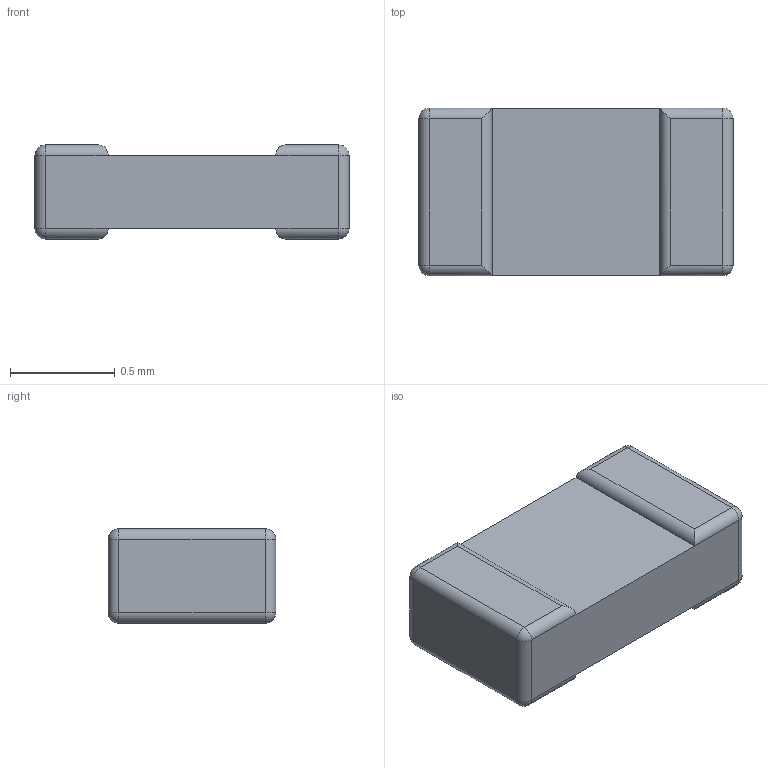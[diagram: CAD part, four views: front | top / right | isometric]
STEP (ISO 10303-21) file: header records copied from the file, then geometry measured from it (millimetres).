
FILE_DESCRIPTION(('Open CASCADE Model'),'2;1');
FILE_NAME('Open CASCADE Shape Model','2026-10-25T11:09:14',('Author'),( 'Open CASCADE'),'Open CASCADE STEP processor 8.0','Open CASCADE 8.0' ,'Unknown');
FILE_SCHEMA(('AUTOMOTIVE_DESIGN { 1 0 10303 214 1 1 1 1 }'));
Length unit declared in the file: millimetre
Products named in the file (1): Open CASCADE STEP translator 8.0 45
Bounding box: 1.5 x 0.8 x 0.45 mm (x, y, z)
Volume: 0.5 mm3; surface area: 4.2 mm2
Topology: 1 solids, 1 shells, 38 faces, 84 edges, 40 vertices
Faces by surface type: cylinder 20, plane 10, sphere 8
Entity records: 2540 total; most frequent: CARTESIAN_POINT 979, DIRECTION 295, LINE 169, VECTOR 169, ORIENTED_EDGE 152, PCURVE 152, DEFINITIONAL_REPRESENTATION 152, EDGE_CURVE 76
